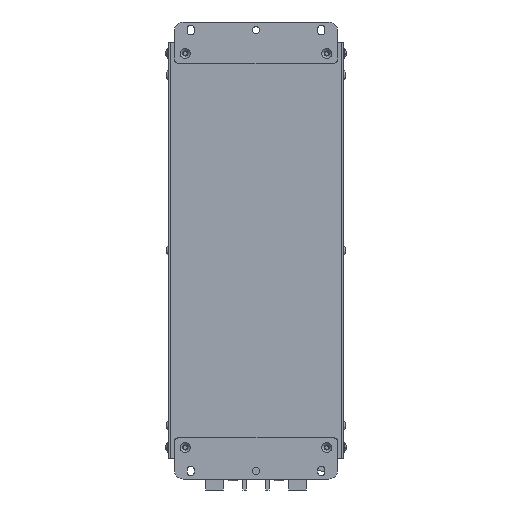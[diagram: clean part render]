
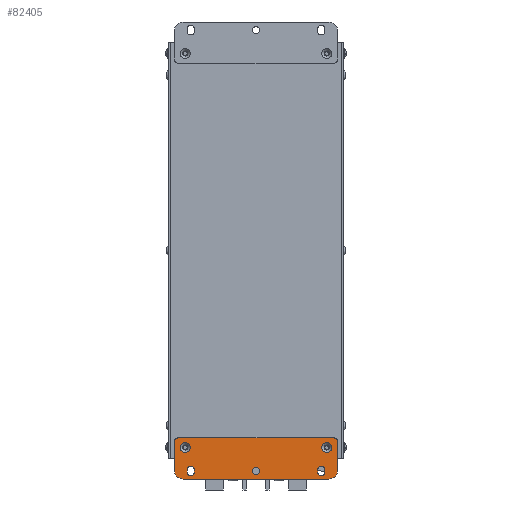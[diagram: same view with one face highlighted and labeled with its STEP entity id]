
A CAD part, front view. The second image highlights one B-rep face of the part: STEP entity #82405.
In plain terms, the highlighted planar face has unit normal (0, -1, 0).
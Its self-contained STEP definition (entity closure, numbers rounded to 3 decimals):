
#9371=FACE_BOUND('',#16627,.T.);
#9372=FACE_BOUND('',#16628,.T.);
#9373=FACE_BOUND('',#16629,.T.);
#9374=FACE_BOUND('',#16630,.T.);
#9375=FACE_BOUND('',#16631,.T.);
#9915=PLANE('',#87144);
#12194=FACE_OUTER_BOUND('',#16626,.T.);
#16626=EDGE_LOOP('',(#58117,#58118,#58119,#58120,#58121,#58122,#58123,#58124));
#16627=EDGE_LOOP('',(#58125));
#16628=EDGE_LOOP('',(#58126));
#16629=EDGE_LOOP('',(#58127,#58128,#58129,#58130));
#16630=EDGE_LOOP('',(#58131,#58132,#58133,#58134));
#16631=EDGE_LOOP('',(#58135));
#21602=LINE('',#110125,#28840);
#21603=LINE('',#110129,#28841);
#21604=LINE('',#110133,#28842);
#21605=LINE('',#110136,#28843);
#21606=LINE('',#110145,#28844);
#21607=LINE('',#110148,#28845);
#21608=LINE('',#110153,#28846);
#21609=LINE('',#110156,#28847);
#28840=VECTOR('',#92399,10.);
#28841=VECTOR('',#92402,10.);
#28842=VECTOR('',#92405,10.);
#28843=VECTOR('',#92408,10.);
#28844=VECTOR('',#92415,10.);
#28845=VECTOR('',#92418,10.);
#28846=VECTOR('',#92421,10.);
#28847=VECTOR('',#92424,10.);
#36077=CIRCLE('',#87142,4.55);
#36079=CIRCLE('',#87145,8.);
#36080=CIRCLE('',#87146,4.);
#36081=CIRCLE('',#87147,4.);
#36082=CIRCLE('',#87148,8.);
#36083=CIRCLE('',#87149,4.55);
#36084=CIRCLE('',#87150,3.3);
#36085=CIRCLE('',#87151,3.3);
#36086=CIRCLE('',#87152,3.3);
#36087=CIRCLE('',#87153,3.3);
#36088=CIRCLE('',#87154,3.3);
#37906=VERTEX_POINT('',#110115);
#37908=VERTEX_POINT('',#110121);
#37909=VERTEX_POINT('',#110122);
#37910=VERTEX_POINT('',#110124);
#37911=VERTEX_POINT('',#110126);
#37912=VERTEX_POINT('',#110128);
#37913=VERTEX_POINT('',#110130);
#37914=VERTEX_POINT('',#110132);
#37915=VERTEX_POINT('',#110134);
#37916=VERTEX_POINT('',#110137);
#37917=VERTEX_POINT('',#110139);
#37918=VERTEX_POINT('',#110141);
#37919=VERTEX_POINT('',#110142);
#37920=VERTEX_POINT('',#110144);
#37921=VERTEX_POINT('',#110146);
#37922=VERTEX_POINT('',#110149);
#37923=VERTEX_POINT('',#110150);
#37924=VERTEX_POINT('',#110152);
#37925=VERTEX_POINT('',#110154);
#45974=EDGE_CURVE('',#37906,#37906,#36077,.T.);
#45977=EDGE_CURVE('',#37908,#37909,#36079,.T.);
#45978=EDGE_CURVE('',#37910,#37908,#21602,.T.);
#45979=EDGE_CURVE('',#37911,#37910,#36080,.T.);
#45980=EDGE_CURVE('',#37912,#37911,#21603,.T.);
#45981=EDGE_CURVE('',#37913,#37912,#36081,.T.);
#45982=EDGE_CURVE('',#37914,#37913,#21604,.T.);
#45983=EDGE_CURVE('',#37915,#37914,#36082,.T.);
#45984=EDGE_CURVE('',#37909,#37915,#21605,.T.);
#45985=EDGE_CURVE('',#37916,#37916,#36083,.T.);
#45986=EDGE_CURVE('',#37917,#37917,#36084,.T.);
#45987=EDGE_CURVE('',#37918,#37919,#36085,.T.);
#45988=EDGE_CURVE('',#37919,#37920,#21606,.T.);
#45989=EDGE_CURVE('',#37920,#37921,#36086,.T.);
#45990=EDGE_CURVE('',#37921,#37918,#21607,.T.);
#45991=EDGE_CURVE('',#37922,#37923,#36087,.T.);
#45992=EDGE_CURVE('',#37923,#37924,#21608,.T.);
#45993=EDGE_CURVE('',#37924,#37925,#36088,.T.);
#45994=EDGE_CURVE('',#37925,#37922,#21609,.T.);
#58117=ORIENTED_EDGE('',*,*,#45977,.F.);
#58118=ORIENTED_EDGE('',*,*,#45978,.F.);
#58119=ORIENTED_EDGE('',*,*,#45979,.F.);
#58120=ORIENTED_EDGE('',*,*,#45980,.F.);
#58121=ORIENTED_EDGE('',*,*,#45981,.F.);
#58122=ORIENTED_EDGE('',*,*,#45982,.F.);
#58123=ORIENTED_EDGE('',*,*,#45983,.F.);
#58124=ORIENTED_EDGE('',*,*,#45984,.F.);
#58125=ORIENTED_EDGE('',*,*,#45985,.F.);
#58126=ORIENTED_EDGE('',*,*,#45986,.T.);
#58127=ORIENTED_EDGE('',*,*,#45987,.T.);
#58128=ORIENTED_EDGE('',*,*,#45988,.T.);
#58129=ORIENTED_EDGE('',*,*,#45989,.T.);
#58130=ORIENTED_EDGE('',*,*,#45990,.T.);
#58131=ORIENTED_EDGE('',*,*,#45991,.T.);
#58132=ORIENTED_EDGE('',*,*,#45992,.T.);
#58133=ORIENTED_EDGE('',*,*,#45993,.T.);
#58134=ORIENTED_EDGE('',*,*,#45994,.T.);
#58135=ORIENTED_EDGE('',*,*,#45974,.F.);
#82405=ADVANCED_FACE('',(#12194,#9371,#9372,#9373,#9374,#9375),#9915,.F.);
#87142=AXIS2_PLACEMENT_3D('',#110116,#92390,#92391);
#87144=AXIS2_PLACEMENT_3D('',#110120,#92395,#92396);
#87145=AXIS2_PLACEMENT_3D('',#110123,#92397,#92398);
#87146=AXIS2_PLACEMENT_3D('',#110127,#92400,#92401);
#87147=AXIS2_PLACEMENT_3D('',#110131,#92403,#92404);
#87148=AXIS2_PLACEMENT_3D('',#110135,#92406,#92407);
#87149=AXIS2_PLACEMENT_3D('',#110138,#92409,#92410);
#87150=AXIS2_PLACEMENT_3D('',#110140,#92411,#92412);
#87151=AXIS2_PLACEMENT_3D('',#110143,#92413,#92414);
#87152=AXIS2_PLACEMENT_3D('',#110147,#92416,#92417);
#87153=AXIS2_PLACEMENT_3D('',#110151,#92419,#92420);
#87154=AXIS2_PLACEMENT_3D('',#110155,#92422,#92423);
#92390=DIRECTION('center_axis',(0.,-1.,0.));
#92391=DIRECTION('ref_axis',(1.,0.,0.));
#92395=DIRECTION('center_axis',(0.,1.,0.));
#92396=DIRECTION('ref_axis',(0.,0.,1.));
#92397=DIRECTION('center_axis',(0.,1.,0.));
#92398=DIRECTION('ref_axis',(0.,0.,1.));
#92399=DIRECTION('',(1.,0.,0.));
#92400=DIRECTION('center_axis',(0.,1.,0.));
#92401=DIRECTION('ref_axis',(-1.,0.,0.));
#92402=DIRECTION('',(0.,0.,1.));
#92403=DIRECTION('center_axis',(0.,1.,0.));
#92404=DIRECTION('ref_axis',(0.,0.,-1.));
#92405=DIRECTION('',(-1.,0.,0.));
#92406=DIRECTION('center_axis',(0.,1.,0.));
#92407=DIRECTION('ref_axis',(1.,0.,0.));
#92408=DIRECTION('',(0.,0.,-1.));
#92409=DIRECTION('center_axis',(0.,-1.,0.));
#92410=DIRECTION('ref_axis',(1.,0.,0.));
#92411=DIRECTION('center_axis',(0.,1.,0.));
#92412=DIRECTION('ref_axis',(1.,0.,0.));
#92413=DIRECTION('center_axis',(0.,1.,0.));
#92414=DIRECTION('ref_axis',(0.,0.,1.));
#92415=DIRECTION('',(1.,0.,0.));
#92416=DIRECTION('center_axis',(0.,1.,0.));
#92417=DIRECTION('ref_axis',(0.,0.,-1.));
#92418=DIRECTION('',(-1.,0.,0.));
#92419=DIRECTION('center_axis',(0.,1.,0.));
#92420=DIRECTION('ref_axis',(0.,0.,1.));
#92421=DIRECTION('',(1.,0.,0.));
#92422=DIRECTION('center_axis',(0.,1.,0.));
#92423=DIRECTION('ref_axis',(0.,0.,-1.));
#92424=DIRECTION('',(-1.,0.,0.));
#110115=CARTESIAN_POINT('',(199.268,0.,-23.367));
#110116=CARTESIAN_POINT('Origin',(203.818,0.,-23.367));
#110120=CARTESIAN_POINT('Origin',(213.818,0.,-88.367));
#110121=CARTESIAN_POINT('',(224.818,0.,-13.367));
#110122=CARTESIAN_POINT('',(232.818,0.,-21.367));
#110123=CARTESIAN_POINT('Origin',(224.818,0.,-21.367));
#110124=CARTESIAN_POINT('',(198.818,0.,-13.367));
#110125=CARTESIAN_POINT('',(198.818,0.,-13.367));
#110126=CARTESIAN_POINT('',(194.818,0.,-17.367));
#110127=CARTESIAN_POINT('Origin',(198.818,0.,-17.367));
#110128=CARTESIAN_POINT('',(194.818,0.,-159.367));
#110129=CARTESIAN_POINT('',(194.818,0.,-159.367));
#110130=CARTESIAN_POINT('',(198.818,0.,-163.367));
#110131=CARTESIAN_POINT('Origin',(198.818,0.,-159.367));
#110132=CARTESIAN_POINT('',(224.818,0.,-163.367));
#110133=CARTESIAN_POINT('',(224.818,0.,-163.367));
#110134=CARTESIAN_POINT('',(232.818,0.,-155.367));
#110135=CARTESIAN_POINT('Origin',(224.818,0.,-155.367));
#110136=CARTESIAN_POINT('',(232.818,0.,-21.367));
#110137=CARTESIAN_POINT('',(199.268,0.,-153.367));
#110138=CARTESIAN_POINT('Origin',(203.818,0.,-153.367));
#110139=CARTESIAN_POINT('',(222.018,0.,-88.367));
#110140=CARTESIAN_POINT('Origin',(225.318,0.,-88.367));
#110141=CARTESIAN_POINT('',(224.318,0.,-31.667));
#110142=CARTESIAN_POINT('',(224.318,0.,-25.067));
#110143=CARTESIAN_POINT('Origin',(224.318,0.,-28.367));
#110144=CARTESIAN_POINT('',(226.318,0.,-25.067));
#110145=CARTESIAN_POINT('',(219.068,0.,-25.067));
#110146=CARTESIAN_POINT('',(226.318,0.,-31.667));
#110147=CARTESIAN_POINT('Origin',(226.318,0.,-28.367));
#110148=CARTESIAN_POINT('',(220.068,0.,-31.667));
#110149=CARTESIAN_POINT('',(224.318,0.,-151.667));
#110150=CARTESIAN_POINT('',(224.318,0.,-145.067));
#110151=CARTESIAN_POINT('Origin',(224.318,0.,-148.367));
#110152=CARTESIAN_POINT('',(226.318,0.,-145.067));
#110153=CARTESIAN_POINT('',(219.068,0.,-145.067));
#110154=CARTESIAN_POINT('',(226.318,0.,-151.667));
#110155=CARTESIAN_POINT('Origin',(226.318,0.,-148.367));
#110156=CARTESIAN_POINT('',(220.068,0.,-151.667));
